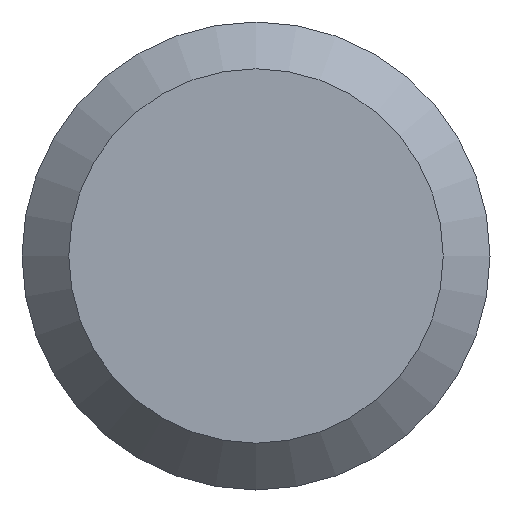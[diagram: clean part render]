
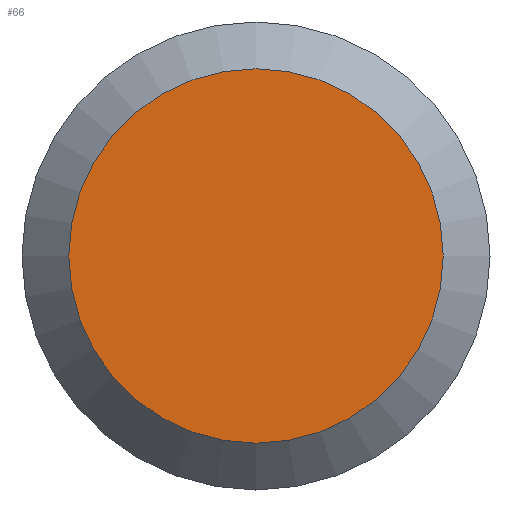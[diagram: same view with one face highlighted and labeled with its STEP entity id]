
A CAD part, left-side view. The second image highlights one B-rep face of the part: STEP entity #66.
In plain terms, the highlighted planar face has unit normal (-1, 0, 0).
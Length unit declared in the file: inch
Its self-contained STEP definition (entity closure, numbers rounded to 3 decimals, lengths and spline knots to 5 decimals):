
#11 = DIRECTION ( 'NONE',  ( -1., 0., 0. ) ) ;
#66 = ADVANCED_FACE ( 'NONE', ( #111 ), #119, .F. ) ;
#69 = VERTEX_POINT ( 'NONE', #202 ) ;
#111 = FACE_OUTER_BOUND ( 'NONE', #240, .T. ) ;
#119 = PLANE ( 'NONE',  #234 ) ;
#131 = DIRECTION ( 'NONE',  ( 0., 0., -1. ) ) ;
#139 = CARTESIAN_POINT ( 'NONE',  ( 0., 0., 0. ) ) ;
#144 = CIRCLE ( 'NONE', #241, 0.118 ) ;
#164 = DIRECTION ( 'NONE',  ( 1., 0., 0. ) ) ;
#180 = DIRECTION ( 'NONE',  ( 0., 0., -1. ) ) ;
#201 = CARTESIAN_POINT ( 'NONE',  ( 0., 0.1475, 0. ) ) ;
#202 = CARTESIAN_POINT ( 'NONE',  ( 0., 0., -0.118 ) ) ;
#234 = AXIS2_PLACEMENT_3D ( 'NONE', #201, #164, #180 ) ;
#236 = ORIENTED_EDGE ( 'NONE', *, *, #247, .T. ) ;
#240 = EDGE_LOOP ( 'NONE', ( #236 ) ) ;
#241 = AXIS2_PLACEMENT_3D ( 'NONE', #139, #11, #131 ) ;
#247 = EDGE_CURVE ( 'NONE', #69, #69, #144, .T. ) ;
